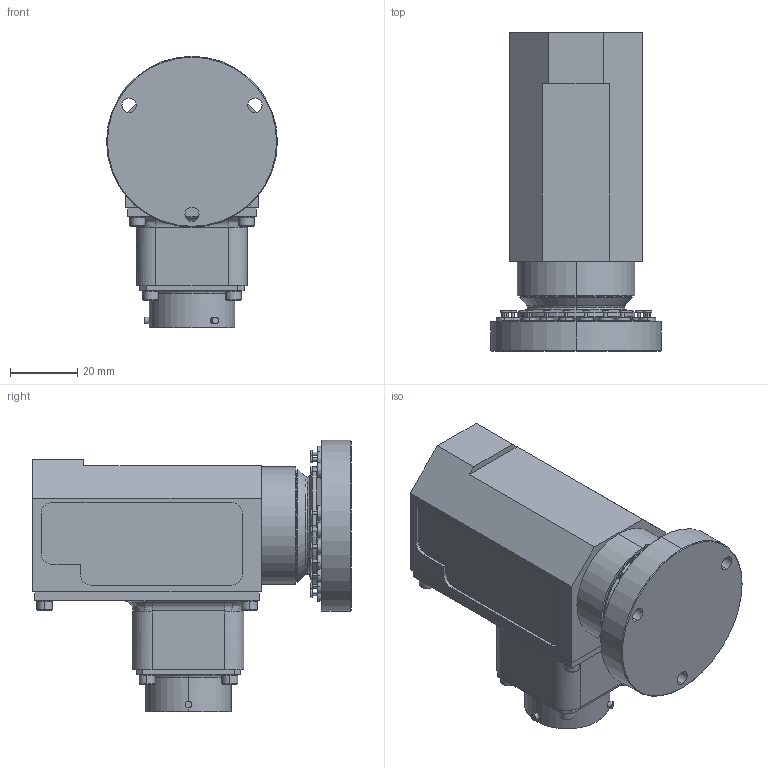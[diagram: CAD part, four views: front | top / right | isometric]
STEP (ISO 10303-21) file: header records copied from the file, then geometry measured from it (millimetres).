
FILE_DESCRIPTION (( 'STEP AP203' ), '1' );
FILE_NAME ('1007785.STEP', '2017-05-23T19:48:48', ( '' ), ( '' ), 'SwSTEP 2.0', 'SolidWorks 2014', '' );
FILE_SCHEMA (( 'CONFIG_CONTROL_DESIGN' ));
Length unit declared in the file: inch
Products named in the file (1): 1007785
Bounding box: 50.77 x 94.7 x 80.66 mm (x, y, z)
Volume: 159305.3 mm3; surface area: 24837.5 mm2
Topology: 1 solids, 1 shells, 489 faces, 1036 edges, 636 vertices
Faces by surface type: cylinder 185, plane 181, cone 106, bspline 8, torus 6, sphere 3
Entity records: 13814 total; most frequent: CARTESIAN_POINT 2969, DIRECTION 2407, ORIENTED_EDGE 2072, EDGE_CURVE 1036, AXIS2_PLACEMENT_3D 970, VERTEX_POINT 636, EDGE_LOOP 584, FACE_OUTER_BOUND 489
